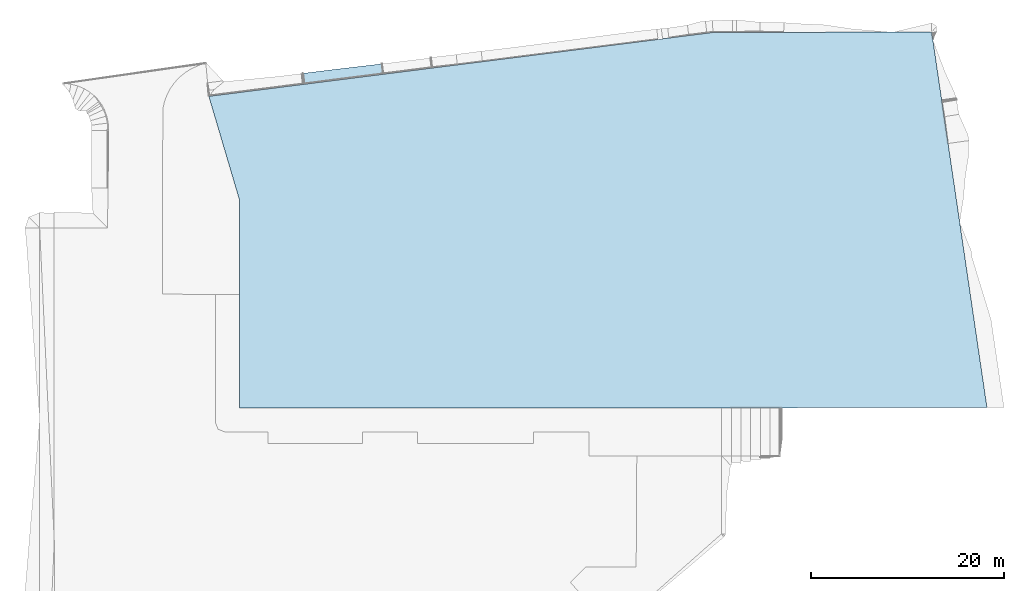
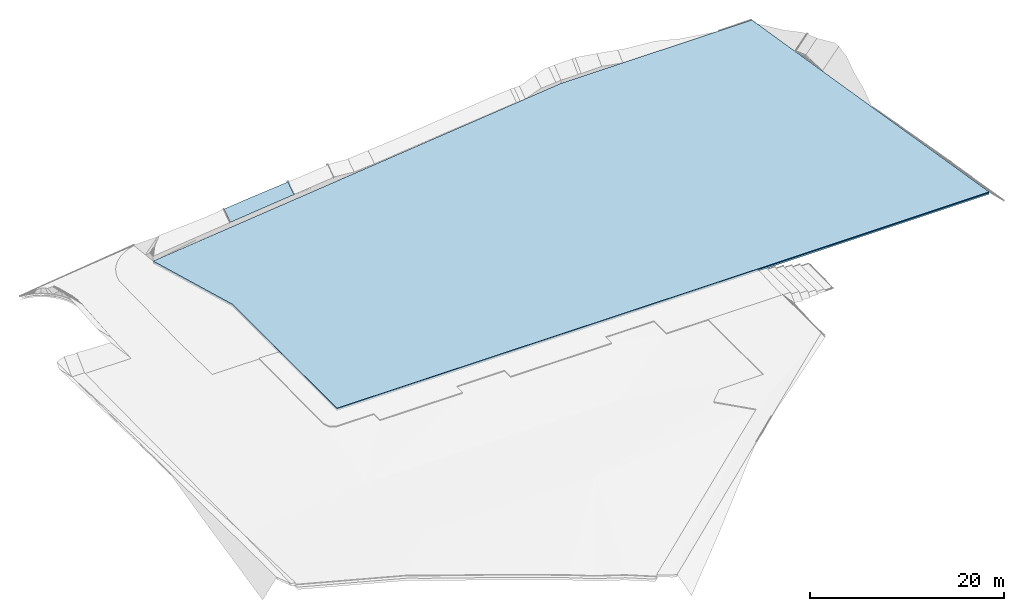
# One storey, part 5 of 14: 4 slabs.
"""IFC2X3 building model written with IfcOpenShell, lengths in metres."""

from ifc_helpers import new_model, si_unit, origin, origin_with_axes, place, context, subcontext, project, spatial, faceted_brep, element, save


model = new_model("IFC2X3")

# Units and contexts
context_of_model = context(None, 3, world=origin_with_axes())
sub_context = subcontext(context_of_model, None, None, "MODEL_VIEW")
ifc_project = project(units=[si_unit("LENGTHUNIT", "METRE"), si_unit("AREAUNIT", "SQUARE_METRE"), si_unit("VOLUMEUNIT", "CUBIC_METRE"), si_unit("PLANEANGLEUNIT", "RADIAN"), si_unit("MASSUNIT", "GRAM", prefix="KILO")])

# Site, building, storey
site_placement = place(None, origin_with_axes())
site = spatial("IfcSite", under=ifc_project, at=site_placement, Name="Site.1", CompositionType="ELEMENT")
building_placement = place(site_placement, origin())
building = spatial("IfcBuilding", under=site, at=building_placement, Name="Building.1", CompositionType="ELEMENT")
storey_placement = place(building_placement, origin())
storey = spatial("IfcBuildingStorey", under=building, at=storey_placement, Name="VRD", CompositionType="ELEMENT")

# Slabs
slab_1_placement = place(storey_placement, origin())
element("IfcSlab", 1, at=slab_1_placement, inside=storey, Name="PJ FINI n°1 (Dallage béton)", PredefinedType="USERDEFINED", context=sub_context, shape_type="Brep", body=[
    faceted_brep([(9.664446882, -2.652429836, 0.0), (-3.114534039, -2.655937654, 0.0), (-3.104534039, 9.114062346, 0.0), (9.664446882, -2.652429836, -0.1), (-3.114534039, -2.655937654, -0.1), (-3.104534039, 9.114062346, -0.1), (15.361752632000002, -2.650865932, 0.0), (15.361752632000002, -2.650865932, -0.1), (27.361429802, -2.661293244, 0.0), (-3.104534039, 18.884809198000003, 0.0), (27.361429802, -2.661293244, -0.1), (-3.104534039, 18.884809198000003, -0.1), (45.984155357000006, 36.276920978, 0.0), (33.118148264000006, -2.659713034, 0.0), (45.984155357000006, 36.276920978, -0.1), (33.118148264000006, -2.659713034, -0.1), (46.881781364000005, -2.655934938, 0.0), (46.881781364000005, -2.655934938, -0.1), (-6.289270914, 29.651859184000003, -0.1), (-6.289270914, 29.651859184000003, 0.0), (74.381633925, -2.591314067, 0.0), (74.381633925, -2.591314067, -0.1), (68.654587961, 36.306524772, -0.1), (68.654587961, 36.306524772, 0.0)], [[[0, 1, 2]], [[3, 4, 5]], [[2, 6, 0]], [[5, 7, 3]], [[8, 6, 9]], [[10, 7, 11]], [[9, 6, 2]], [[11, 7, 5]], [[12, 13, 8]], [[14, 15, 10]], [[16, 13, 12]], [[17, 15, 14]], [[9, 12, 8]], [[11, 14, 10]], [[12, 14, 18, 19]], [[19, 12, 9]], [[18, 14, 11]], [[20, 21, 22, 23]], [[16, 17, 21, 20]], [[20, 16, 23]], [[21, 17, 22]], [[23, 22, 14, 12]], [[12, 23, 16]], [[14, 22, 17]]], orient=[[True], [False], [True], [False], [True], [False], [True], [False], [True], [False], [True], [False], [True], [False], [True], [True], [False], [True], [True], [True], [False], [True], [True], [False]]),
])
slab_2_placement = place(storey_placement, origin())
element("IfcSlab", 2, at=slab_2_placement, inside=storey, Name="PJ FINI n°1 (Hérisson 0/31.5)", PredefinedType="USERDEFINED", context=sub_context, shape_type="Brep", body=[
    faceted_brep([(9.664446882, -2.652429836, -0.1), (-3.114534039, -2.655937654, -0.1), (-3.104534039, 9.114062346, -0.1), (9.664446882, -2.652429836, -0.3), (-3.114534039, -2.655937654, -0.3), (-3.104534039, 9.114062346, -0.3), (15.361752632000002, -2.650865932, -0.1), (15.361752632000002, -2.650865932, -0.3), (27.361429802, -2.661293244, -0.1), (-3.104534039, 18.884809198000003, -0.1), (27.361429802, -2.661293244, -0.3), (-3.104534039, 18.884809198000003, -0.3), (45.984155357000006, 36.276920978, -0.1), (33.118148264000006, -2.659713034, -0.1), (45.984155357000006, 36.276920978, -0.3), (33.118148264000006, -2.659713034, -0.3), (46.881781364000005, -2.655934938, -0.1), (46.881781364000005, -2.655934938, -0.3), (-6.289270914, 29.651859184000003, -0.3), (-6.289270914, 29.651859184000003, -0.1), (74.381633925, -2.591314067, -0.1), (74.381633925, -2.591314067, -0.3), (68.654587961, 36.306524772, -0.3), (68.654587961, 36.306524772, -0.1)], [[[0, 1, 2]], [[3, 4, 5]], [[2, 6, 0]], [[5, 7, 3]], [[8, 6, 9]], [[10, 7, 11]], [[9, 6, 2]], [[11, 7, 5]], [[12, 13, 8]], [[14, 15, 10]], [[16, 13, 12]], [[17, 15, 14]], [[9, 12, 8]], [[11, 14, 10]], [[12, 14, 18, 19]], [[19, 12, 9]], [[18, 14, 11]], [[20, 21, 22, 23]], [[16, 17, 21, 20]], [[20, 16, 23]], [[21, 17, 22]], [[23, 22, 14, 12]], [[12, 23, 16]], [[14, 22, 17]]], orient=[[True], [False], [True], [False], [True], [False], [True], [False], [True], [False], [True], [False], [True], [False], [True], [True], [False], [True], [True], [True], [False], [True], [True], [False]]),
])
slab_3_placement = place(storey_placement, origin())
element("IfcSlab", 3, at=slab_3_placement, inside=storey, Name="PJ FINI n°1", PredefinedType="USERDEFINED", context=sub_context, shape_type="Brep", body=[
    faceted_brep([(9.664446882, -2.652429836, 0.0), (-3.114534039, -2.655937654, 0.0), (-3.104534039, 9.114062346, 0.0), (15.361752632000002, -2.650865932, 0.0), (27.361429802, -2.661293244, 0.0), (-3.104534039, 18.884809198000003, 0.0), (45.984155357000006, 36.276920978, 0.0), (33.118148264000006, -2.659713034, 0.0), (46.881781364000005, -2.655934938, 0.0), (-6.289270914, 29.651859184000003, 0.0), (74.381633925, -2.591314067, 0.0), (68.654587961, 36.306524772, 0.0)], [[[0, 1, 2]], [[2, 3, 0]], [[4, 3, 5]], [[5, 3, 2]], [[6, 7, 4]], [[8, 7, 6]], [[5, 6, 4]], [[9, 6, 5]], [[10, 8, 11]], [[6, 11, 8]]]),
])
slab_4_placement = place(storey_placement, origin())
element("IfcSlab", 4, at=slab_4_placement, inside=storey, Name="PJ FINI n°61", PredefinedType="USERDEFINED", context=sub_context, shape_type="Brep", body=[
    faceted_brep([(3.511115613, 32.030986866, 1.662071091), (7.007355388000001, 32.468834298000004, 1.659168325), (3.645543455, 30.97079798, 0.593393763), (11.786624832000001, 32.003191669, 0.599388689), (11.658443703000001, 33.014454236, 1.618742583), (11.658443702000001, 33.014454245, 1.618742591), (3.511115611, 32.030986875, 1.6620711)], [[[0, 1, 2]], [[3, 1, 4]], [[5, 4, 1]], [[1, 0, 6]], [[3, 2, 1]]]),
])

save(model, "model.ifc")
